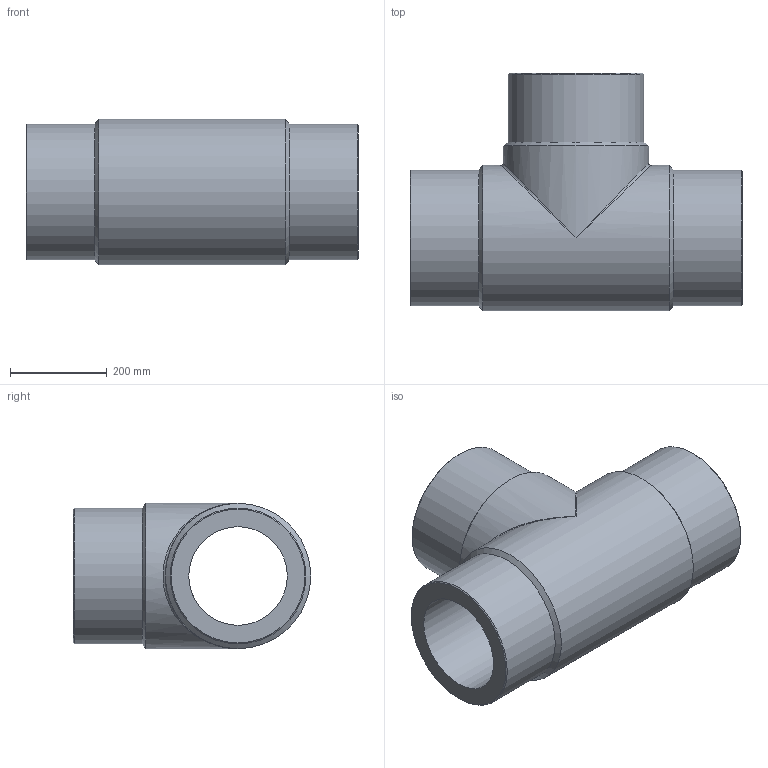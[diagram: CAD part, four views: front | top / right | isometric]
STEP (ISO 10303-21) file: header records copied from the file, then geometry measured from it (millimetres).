
FILE_DESCRIPTION(/* description */ ('Unknown'),/* implementation_level */ '2;1');
FILE_NAME(/* name */ 'TP280H',/* time_stamp */ '2021-08-06T12:37:46+02:00',/* author */ ('Unknown'),/* organization */ ('Unknown'),/* preprocessor_version */ 'ST-DEVELOPER v16.7',/* originating_system */ 'Solid Edge',/* authorisation */ 'Unknown');
FILE_SCHEMA (('AUTOMOTIVE_DESIGN {1 0 10303 214 3 1 1}'));
Length unit declared in the file: millimetre
Products named in the file (1): TP280H
Bounding box: 685 x 490 x 300 mm (x, y, z)
Volume: 28957576.1 mm3; surface area: 1427230.9 mm2
Topology: 1 solids, 1 shells, 18 faces, 44 edges, 23 vertices
Faces by surface type: cylinder 7, cone 6, plane 3, bspline 2
Full cylindrical faces by diameter (mm): 203.4 x2, 280 x3, 300 x2
Entity records: 528 total; most frequent: CARTESIAN_POINT 171, DIRECTION 76, ORIENTED_EDGE 42, AXIS2_PLACEMENT_3D 38, EDGE_LOOP 36, FACE_BOUND 36, EDGE_CURVE 21, VERTEX_POINT 19
